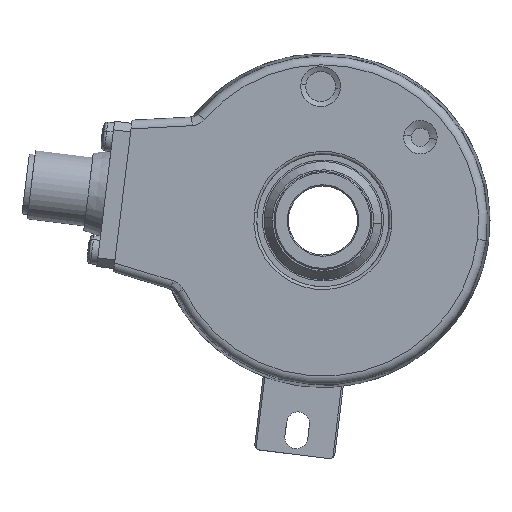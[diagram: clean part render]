
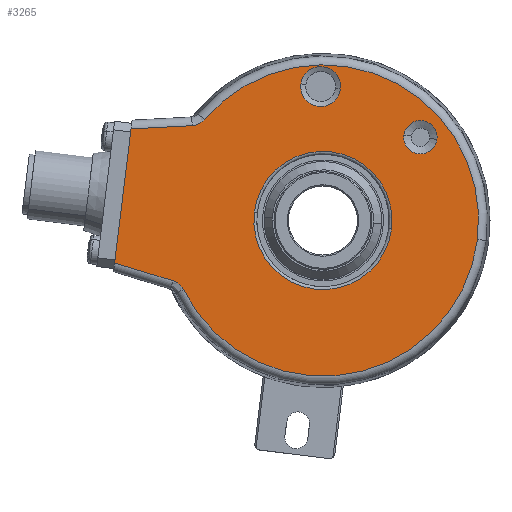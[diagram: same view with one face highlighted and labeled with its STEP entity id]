
A CAD part, left-side view. The second image highlights one B-rep face of the part: STEP entity #3265.
In plain terms, the highlighted planar face has unit normal (-1, 0, 0).
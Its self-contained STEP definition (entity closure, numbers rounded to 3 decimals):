
#75 = B_SPLINE_CURVE_WITH_KNOTS ( 'NONE', 3,
 ( #9623, #10019, #9400, #9370, #9341, #9332, #9302, #9232, #9226, #9197 ),
 .UNSPECIFIED., .F., .F.,
 ( 4, 2, 2, 2, 4 ),
 ( 0., 0.001, 0.001, 0.002, 0.002 ),
 .UNSPECIFIED. ) ;
#209 = VERTEX_POINT ( 'NONE', #2824 ) ;
#880 = EDGE_CURVE ( 'NONE', #16541, #21881, #26435, .T. ) ;
#1063 = VERTEX_POINT ( 'NONE', #23907 ) ;
#1318 = DIRECTION ( 'NONE',  ( 0., -0.993, -0.122 ) ) ;
#1815 = CARTESIAN_POINT ( 'NONE',  ( -30.5, -16.919, 14.45 ) ) ;
#1918 = EDGE_CURVE ( 'NONE', #26095, #25590, #22525, .T. ) ;
#1975 = DIRECTION ( 'NONE',  ( 1., 0., 0. ) ) ;
#2016 = EDGE_CURVE ( 'NONE', #26214, #1063, #75, .T. ) ;
#2144 = CARTESIAN_POINT ( 'NONE',  ( -30.5, 0., 0. ) ) ;
#2155 = AXIS2_PLACEMENT_3D ( 'NONE', #10771, #10743, #10734 ) ;
#2583 = VERTEX_POINT ( 'NONE', #2789 ) ;
#2789 = CARTESIAN_POINT ( 'NONE',  ( -30.5, 24.205, -12.014 ) ) ;
#2824 = CARTESIAN_POINT ( 'NONE',  ( -30.5, 33.31, 15.905 ) ) ;
#3265 = ADVANCED_FACE ( 'NONE', ( #17669, #17762, #17751, #17645 ), #19357, .F. ) ;
#4288 = DIRECTION ( 'NONE',  ( 0., -0.993, -0.122 ) ) ;
#4320 = EDGE_CURVE ( 'NONE', #26214, #209, #13724, .T. ) ;
#4611 = DIRECTION ( 'NONE',  ( 0., -0.993, -0.122 ) ) ;
#5019 = B_SPLINE_CURVE_WITH_KNOTS ( 'NONE', 3,
 ( #15539, #15467, #15442, #15439, #15407, #15401, #15371, #15348, #15346, #15313 ),
 .UNSPECIFIED., .F., .F.,
 ( 4, 2, 2, 2, 4 ),
 ( 0., 0.001, 0.001, 0.002, 0.002 ),
 .UNSPECIFIED. ) ;
#6017 = CARTESIAN_POINT ( 'NONE',  ( -30.5, -19.796, 14.097 ) ) ;
#6164 = ORIENTED_EDGE ( 'NONE', *, *, #29436, .T. ) ;
#6843 = ORIENTED_EDGE ( 'NONE', *, *, #23853, .F. ) ;
#6847 = ORIENTED_EDGE ( 'NONE', *, *, #27427, .T. ) ;
#7982 = CARTESIAN_POINT ( 'NONE',  ( -30.5, 0.406, 23.246 ) ) ;
#8266 = AXIS2_PLACEMENT_3D ( 'NONE', #1815, #18022, #4288 ) ;
#8317 = ORIENTED_EDGE ( 'NONE', *, *, #23019, .T. ) ;
#8629 = DIRECTION ( 'NONE',  ( -1., 0., 0. ) ) ;
#8838 = CIRCLE ( 'NONE', #28238, 12. ) ;
#9045 = ORIENTED_EDGE ( 'NONE', *, *, #9052, .F. ) ;
#9052 = EDGE_CURVE ( 'NONE', #2583, #22735, #5019, .T. ) ;
#9197 = CARTESIAN_POINT ( 'NONE',  ( -30.5, 20.579, 17.512 ) ) ;
#9198 = CARTESIAN_POINT ( 'NONE',  ( -30.5, 22.708, 16.461 ) ) ;
#9226 = CARTESIAN_POINT ( 'NONE',  ( -30.5, 20.712, 17.356 ) ) ;
#9232 = CARTESIAN_POINT ( 'NONE',  ( -30.5, 20.859, 17.216 ) ) ;
#9302 = CARTESIAN_POINT ( 'NONE',  ( -30.5, 21.178, 16.967 ) ) ;
#9332 = CARTESIAN_POINT ( 'NONE',  ( -30.5, 21.352, 16.857 ) ) ;
#9341 = CARTESIAN_POINT ( 'NONE',  ( -30.5, 21.716, 16.677 ) ) ;
#9370 = CARTESIAN_POINT ( 'NONE',  ( -30.5, 21.906, 16.606 ) ) ;
#9400 = CARTESIAN_POINT ( 'NONE',  ( -30.5, 22.299, 16.503 ) ) ;
#9623 = CARTESIAN_POINT ( 'NONE',  ( -30.5, 22.708, 16.461 ) ) ;
#9780 = AXIS2_PLACEMENT_3D ( 'NONE', #7982, #24043, #10247 ) ;
#10019 = CARTESIAN_POINT ( 'NONE',  ( -30.5, 22.503, 16.471 ) ) ;
#10247 = DIRECTION ( 'NONE',  ( 0., -0.993, -0.122 ) ) ;
#10734 = DIRECTION ( 'NONE',  ( 0., -0.993, -0.122 ) ) ;
#10743 = DIRECTION ( 'NONE',  ( 1., 0., 0. ) ) ;
#10771 = CARTESIAN_POINT ( 'NONE',  ( -30.5, 0.406, 23.246 ) ) ;
#11180 = CARTESIAN_POINT ( 'NONE',  ( -30.5, 36.168, -7.374 ) ) ;
#11559 = CARTESIAN_POINT ( 'NONE',  ( -30.5, 26.015, -10.478 ) ) ;
#12056 = VERTEX_POINT ( 'NONE', #11180 ) ;
#12070 = AXIS2_PLACEMENT_3D ( 'NONE', #26185, #26157, #26129 ) ;
#12343 = ORIENTED_EDGE ( 'NONE', *, *, #25591, .T. ) ;
#12813 = CIRCLE ( 'NONE', #26540, 12. ) ;
#12854 = VERTEX_POINT ( 'NONE', #23487 ) ;
#13540 = CARTESIAN_POINT ( 'NONE',  ( -30.5, 25.362, -10.678 ) ) ;
#13690 = VECTOR ( 'NONE', #29726, 1000. ) ;
#13698 = VECTOR ( 'NONE', #17047, 1000. ) ;
#13724 = LINE ( 'NONE', #17396, #13698 ) ;
#13763 = CARTESIAN_POINT ( 'NONE',  ( -30.5, 36.354, -8.886 ) ) ;
#13981 = LINE ( 'NONE', #13540, #27559 ) ;
#14259 = CIRCLE ( 'NONE', #8266, 2.899 ) ;
#15204 = DIRECTION ( 'NONE',  ( -1., 0., 0. ) ) ;
#15313 = CARTESIAN_POINT ( 'NONE',  ( -30.5, 26.015, -10.478 ) ) ;
#15332 = EDGE_LOOP ( 'NONE', ( #25678, #6847 ) ) ;
#15346 = CARTESIAN_POINT ( 'NONE',  ( -30.5, 25.819, -10.538 ) ) ;
#15348 = CARTESIAN_POINT ( 'NONE',  ( -30.5, 25.632, -10.617 ) ) ;
#15371 = CARTESIAN_POINT ( 'NONE',  ( -30.5, 25.277, -10.811 ) ) ;
#15401 = CARTESIAN_POINT ( 'NONE',  ( -30.5, 25.107, -10.927 ) ) ;
#15407 = CARTESIAN_POINT ( 'NONE',  ( -30.5, 24.797, -11.19 ) ) ;
#15416 = EDGE_LOOP ( 'NONE', ( #23185, #24904 ) ) ;
#15439 = CARTESIAN_POINT ( 'NONE',  ( -30.5, 24.657, -11.336 ) ) ;
#15442 = CARTESIAN_POINT ( 'NONE',  ( -30.5, 24.406, -11.656 ) ) ;
#15467 = CARTESIAN_POINT ( 'NONE',  ( -30.5, 24.296, -11.83 ) ) ;
#15539 = CARTESIAN_POINT ( 'NONE',  ( -30.5, 24.205, -12.014 ) ) ;
#15808 = CARTESIAN_POINT ( 'NONE',  ( -30.5, 0., 0. ) ) ;
#16072 = EDGE_LOOP ( 'NONE', ( #12343, #6164 ) ) ;
#16442 = DIRECTION ( 'NONE',  ( 0., -0.993, -0.122 ) ) ;
#16444 = EDGE_LOOP ( 'NONE', ( #21422, #25736, #6843, #23794, #9045, #17306, #8317 ) ) ;
#16541 = VERTEX_POINT ( 'NONE', #18674 ) ;
#16873 = DIRECTION ( 'NONE',  ( 1., 0., 0. ) ) ;
#17047 = DIRECTION ( 'NONE',  ( 0., 0.999, -0.052 ) ) ;
#17306 = ORIENTED_EDGE ( 'NONE', *, *, #20257, .T. ) ;
#17396 = CARTESIAN_POINT ( 'NONE',  ( -30.5, 33.046, 15.919 ) ) ;
#17645 = FACE_OUTER_BOUND ( 'NONE', #16444, .T. ) ;
#17669 = FACE_BOUND ( 'NONE', #15416, .T. ) ;
#17751 = FACE_BOUND ( 'NONE', #16072, .T. ) ;
#17762 = FACE_BOUND ( 'NONE', #15332, .T. ) ;
#17887 = CARTESIAN_POINT ( 'NONE',  ( -30.5, 3.846, 23.669 ) ) ;
#18022 = DIRECTION ( 'NONE',  ( 1., 0., 0. ) ) ;
#18178 = DIRECTION ( 'NONE',  ( 0., -0.993, -0.122 ) ) ;
#18336 = DIRECTION ( 'NONE',  ( 1., 0., 0. ) ) ;
#18674 = CARTESIAN_POINT ( 'NONE',  ( -30.5, -14.042, 14.804 ) ) ;
#19025 = CARTESIAN_POINT ( 'NONE',  ( -30.5, 0., 0. ) ) ;
#19357 = PLANE ( 'NONE',  #29456 ) ;
#20257 = EDGE_CURVE ( 'NONE', #2583, #12854, #28152, .T. ) ;
#20576 = CARTESIAN_POINT ( 'NONE',  ( -30.5, -3.034, 22.824 ) ) ;
#20750 = EDGE_CURVE ( 'NONE', #12056, #22735, #13981, .T. ) ;
#20851 = CIRCLE ( 'NONE', #9780, 3.466 ) ;
#21422 = ORIENTED_EDGE ( 'NONE', *, *, #2016, .F. ) ;
#21776 = CARTESIAN_POINT ( 'NONE',  ( -30.5, 11.911, 1.462 ) ) ;
#21881 = VERTEX_POINT ( 'NONE', #6017 ) ;
#22426 = CARTESIAN_POINT ( 'NONE',  ( -30.5, 0., 0. ) ) ;
#22525 = CIRCLE ( 'NONE', #2155, 3.466 ) ;
#22735 = VERTEX_POINT ( 'NONE', #11559 ) ;
#22927 = VERTEX_POINT ( 'NONE', #21776 ) ;
#23019 = EDGE_CURVE ( 'NONE', #12854, #1063, #28579, .T. ) ;
#23185 = ORIENTED_EDGE ( 'NONE', *, *, #880, .T. ) ;
#23487 = CARTESIAN_POINT ( 'NONE',  ( -30.5, -26.821, -3.293 ) ) ;
#23794 = ORIENTED_EDGE ( 'NONE', *, *, #20750, .T. ) ;
#23853 = EDGE_CURVE ( 'NONE', #12056, #209, #24343, .T. ) ;
#23907 = CARTESIAN_POINT ( 'NONE',  ( -30.5, 20.579, 17.512 ) ) ;
#24043 = DIRECTION ( 'NONE',  ( 1., 0., 0. ) ) ;
#24343 = LINE ( 'NONE', #13763, #13690 ) ;
#24709 = DIRECTION ( 'NONE',  ( 0., -0.993, -0.122 ) ) ;
#24904 = ORIENTED_EDGE ( 'NONE', *, *, #27639, .T. ) ;
#25066 = DIRECTION ( 'NONE',  ( 0., -0.956, -0.292 ) ) ;
#25223 = AXIS2_PLACEMENT_3D ( 'NONE', #29021, #15204, #1318 ) ;
#25590 = VERTEX_POINT ( 'NONE', #20576 ) ;
#25591 = EDGE_CURVE ( 'NONE', #26843, #22927, #8838, .T. ) ;
#25678 = ORIENTED_EDGE ( 'NONE', *, *, #1918, .T. ) ;
#25736 = ORIENTED_EDGE ( 'NONE', *, *, #4320, .T. ) ;
#26095 = VERTEX_POINT ( 'NONE', #17887 ) ;
#26129 = DIRECTION ( 'NONE',  ( 0., -0.993, -0.122 ) ) ;
#26157 = DIRECTION ( 'NONE',  ( 1., 0., 0. ) ) ;
#26185 = CARTESIAN_POINT ( 'NONE',  ( -30.5, -16.919, 14.45 ) ) ;
#26214 = VERTEX_POINT ( 'NONE', #9198 ) ;
#26435 = CIRCLE ( 'NONE', #12070, 2.899 ) ;
#26540 = AXIS2_PLACEMENT_3D ( 'NONE', #15808, #1975, #18178 ) ;
#26843 = VERTEX_POINT ( 'NONE', #28025 ) ;
#27427 = EDGE_CURVE ( 'NONE', #25590, #26095, #20851, .T. ) ;
#27559 = VECTOR ( 'NONE', #25066, 1000. ) ;
#27639 = EDGE_CURVE ( 'NONE', #21881, #16541, #14259, .T. ) ;
#27818 = AXIS2_PLACEMENT_3D ( 'NONE', #22426, #8629, #24709 ) ;
#28025 = CARTESIAN_POINT ( 'NONE',  ( -30.5, -11.911, -1.462 ) ) ;
#28152 = CIRCLE ( 'NONE', #27818, 27.022 ) ;
#28238 = AXIS2_PLACEMENT_3D ( 'NONE', #2144, #18336, #4611 ) ;
#28579 = CIRCLE ( 'NONE', #25223, 27.022 ) ;
#29021 = CARTESIAN_POINT ( 'NONE',  ( -30.5, 0., 0. ) ) ;
#29436 = EDGE_CURVE ( 'NONE', #22927, #26843, #12813, .T. ) ;
#29456 = AXIS2_PLACEMENT_3D ( 'NONE', #19025, #16873, #16442 ) ;
#29726 = DIRECTION ( 'NONE',  ( 0., -0.122, 0.993 ) ) ;
